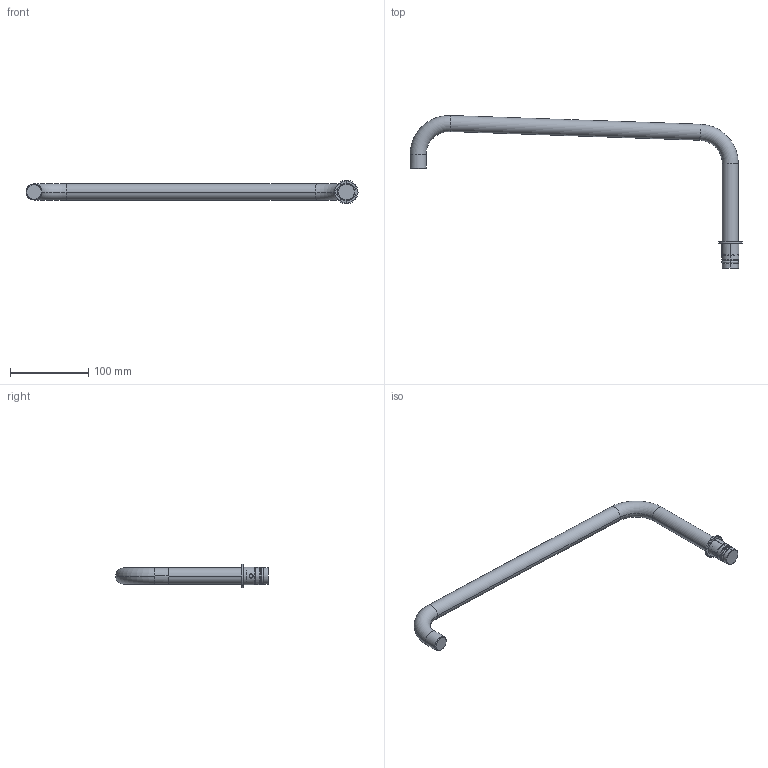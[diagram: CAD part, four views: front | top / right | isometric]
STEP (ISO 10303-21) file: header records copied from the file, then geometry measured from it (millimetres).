
FILE_DESCRIPTION((''),'2;1');
FILE_NAME('508382','2012-05-08T',('lff'),(''),'PRO/ENGINEER BY PARAMETRIC TECHNOLOGY CORPORATION, 2011080','PRO/ENGINEER BY PARAMETRIC TECHNOLOGY CORPORATION, 2011080','');
FILE_SCHEMA(('AUTOMOTIVE_DESIGN_CC2 { 1 2 10303 214 -1 1 5 2 }'));
Length unit declared in the file: millimetre
Products named in the file (1): 508382
Bounding box: 425.25 x 195.89 x 30 mm (x, y, z)
Volume: 199244.4 mm3; surface area: 42739 mm2
Topology: 1 solids, 1 shells, 155 faces, 388 edges, 242 vertices
Faces by surface type: plane 71, cylinder 50, torus 22, cone 12
Entity records: 6220 total; most frequent: CARTESIAN_POINT 1293, DIRECTION 820, ORIENTED_EDGE 776, EDGE_CURVE 388, AXIS2_PLACEMENT_3D 309, VERTEX_POINT 242, VECTOR 202, LINE 202
